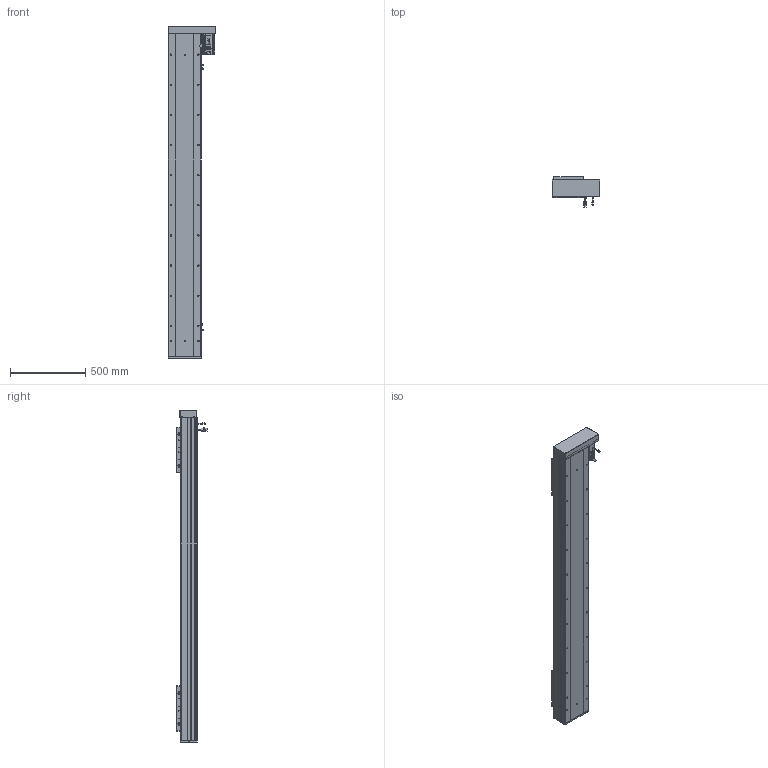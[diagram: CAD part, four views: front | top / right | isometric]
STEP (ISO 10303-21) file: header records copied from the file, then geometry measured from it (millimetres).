
FILE_DESCRIPTION (( 'STEP AP203' ), '1' );
FILE_NAME ('RY220F-L2525-800-RK-邧嶺.SLDASM_1700.step', '2022-08-06T08:19:47', ( '' ), ( '' ), 'SwSTEP 2.0', 'SolidWorks 2016', '' );
FILE_SCHEMA (( 'CONFIG_CONTROL_DESIGN' ));
Length unit declared in the file: millimetre
Products named in the file (15): RY220F綴裔啣; 侐源滅袉蝶; RY220F-蛌殏奻裔啣-800_1700; 滅袉蝶18-24; RY220F-L2525-800-RK-邧嶺.SLDASM_1700; RY220F-滅鳥奻裔; 覜茼ん672; RY220酘衵殏萇儂欶; RY220F-672覜茼んえ; RY220F蛌殏菁釱-800-邧嶺_1700; RY220左右折电机安装板; RY220F臏賑釱25-32佪裝; RY220F-詩湍揤踡輸; RY220F-祥凄詩湍-蛌殏-800_1700; 怢湛750W_ECMA-CX0807ES
Assembly tree (24 placements, depth 2):
  RY220F-L2525-800-RK-邧嶺.SLDASM_1700
    RY220F蛌殏菁釱-800-邧嶺_1700
    RY220F-蛌殏奻裔啣-800_1700  x2
    怢湛750W_ECMA-CX0807ES
    RY220F臏賑釱25-32佪裝  x2
    RY220F-滅鳥奻裔  x2
    滅袉蝶18-24  x3
    RY220F綴裔啣
    RY220F-祥凄詩湍-蛌殏-800_1700
    RY220F-詩湍揤踡輸  x2
    覜茼ん672  x3
    RY220F-672覜茼んえ  x2
    RY220左右折电机安装板
    RY220酘衵殏萇儂欶
    侐源滅袉蝶  x2
Bounding box: 317.5 x 205.27 x 2203 mm (x, y, z)
Volume: 19248474.5 mm3; surface area: 5114492.3 mm2
Topology: 25 solids, 25 shells, 2864 faces, 7776 edges, 4790 vertices
Faces by surface type: cylinder 1302, plane 1044, cone 447, bspline 45, sphere 16, torus 10
Entity records: 71316 total; most frequent: CARTESIAN_POINT 19075, ORIENTED_EDGE 10518, DIRECTION 10336, EDGE_CURVE 5259, AXIS2_PLACEMENT_3D 3702, VERTEX_POINT 3406, VECTOR 2932, LINE 2932
